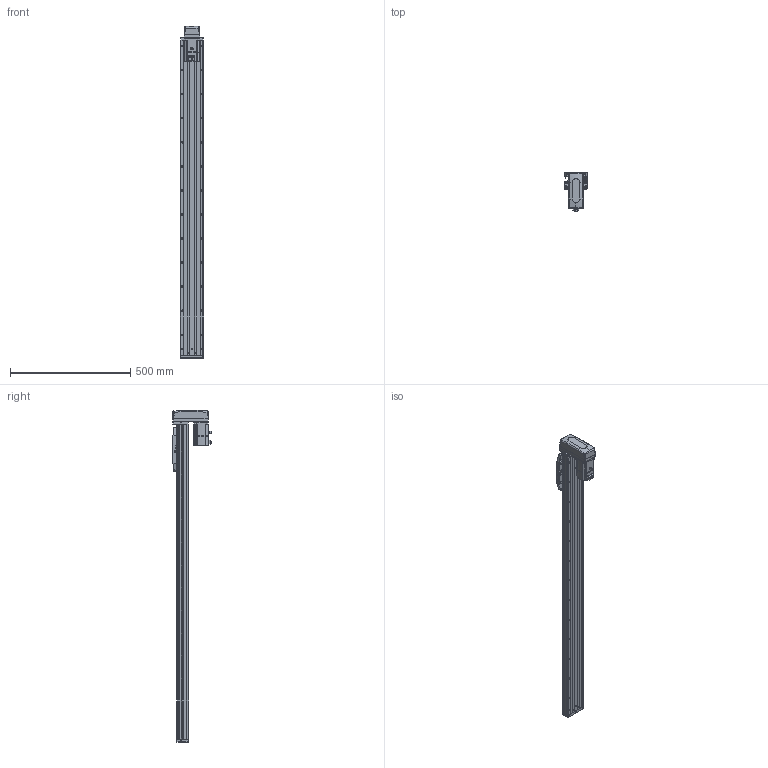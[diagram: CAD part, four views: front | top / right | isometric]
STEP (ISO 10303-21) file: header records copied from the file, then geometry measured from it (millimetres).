
FILE_DESCRIPTION (( 'STEP AP203' ), '1' );
FILE_NAME ('CTHA100-1100-BM-M20-C4L.step', '2022-07-06T09:02:56', ( '微软用户' ), ( '微软中国' ), 'SwSTEP 2.0', 'SolidWorks 2020', '' );
FILE_SCHEMA (( 'CONFIG_CONTROL_DESIGN' ));
Length unit declared in the file: millimetre
Products named in the file (19): EE_SX911P_R; _X2_4E0983F1_X0_200W_1; CTHA100-1100-BM-M20-C4L; CTHA60-017; CTHA100-002; CTHA60-021; CTHA100-031; KTHA100-001_1310; GBT77-2000 M3×3; CTHA86-030; KTHA100-004; GBT 70.1-M3℅6; GBT 70.3-M3℅6; KTHA100-005; GBT70.1 M5℅16; CTHA86-015-1_CTHA86-015-2; GB¨uT 70.2-M3¡Á5_M3¡Á6; CTHA60-016; CTHA86-033
Assembly tree (64 placements, depth 2):
  CTHA100-1100-BM-M20-C4L
    KTHA100-001_1310
    KTHA100-004
    KTHA100-005
    GB¨uT 70.2-M3¡Á5_M3¡Á6  x10
    EE_SX911P_R  x3
    CTHA60-017  x3
    CTHA60-021  x2
    GBT77-2000 M3×3  x6
    GBT 70.1-M3℅6  x10
    GBT70.1 M5℅16  x14
    CTHA60-016  x2
    _X2_4E0983F1_X0_200W_1
    CTHA100-002
    CTHA100-031
    CTHA86-030  x2
    GBT 70.3-M3℅6  x4
    CTHA86-015-1_CTHA86-015-2
    CTHA86-033
Bounding box: 98.82 x 163.2 x 1381 mm (x, y, z)
Volume: 5413447.9 mm3; surface area: 889927.2 mm2
Topology: 66 solids, 66 shells, 2789 faces, 6751 edges, 4192 vertices
Faces by surface type: plane 1464, cylinder 737, cone 365, torus 124, bspline 75, sphere 24
Entity records: 49868 total; most frequent: CARTESIAN_POINT 9707, DIRECTION 7754, ORIENTED_EDGE 7618, EDGE_CURVE 3809, AXIS2_PLACEMENT_3D 2611, LINE 2532, VECTOR 2532, VERTEX_POINT 2412
